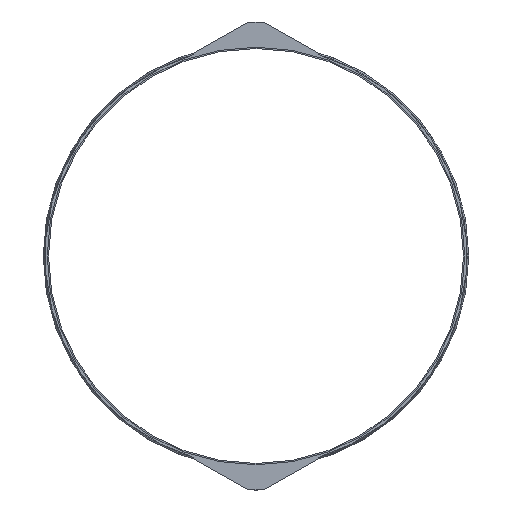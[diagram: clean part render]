
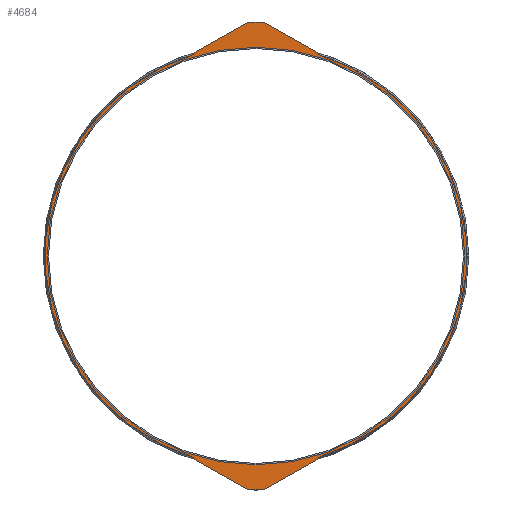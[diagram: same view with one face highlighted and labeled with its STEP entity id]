
A CAD part, left-side view. The second image highlights one B-rep face of the part: STEP entity #4684.
In plain terms, the highlighted planar face has unit normal (-1, 0, 0).
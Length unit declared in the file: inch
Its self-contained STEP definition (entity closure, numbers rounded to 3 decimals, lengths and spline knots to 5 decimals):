
#134=FACE_BOUND('',#814,.T.);
#300=PLANE('',#5095);
#539=FACE_OUTER_BOUND('',#813,.T.);
#813=EDGE_LOOP('',(#4140,#4141,#4142,#4143,#4144,#4145,#4146,#4147,#4148,
#4149,#4150,#4151,#4152,#4153,#4154,#4155,#4156,#4157,#4158,#4159));
#814=EDGE_LOOP('',(#4160,#4161));
#973=LINE('',#6759,#1422);
#977=LINE('',#6771,#1426);
#981=LINE('',#6783,#1430);
#985=LINE('',#6795,#1434);
#987=LINE('',#6800,#1436);
#1206=LINE('',#7611,#1655);
#1210=LINE('',#7623,#1659);
#1214=LINE('',#7635,#1663);
#1218=LINE('',#7645,#1667);
#1221=LINE('',#7651,#1670);
#1422=VECTOR('',#5479,0.3937);
#1426=VECTOR('',#5491,0.3937);
#1430=VECTOR('',#5503,0.3937);
#1434=VECTOR('',#5515,0.3937);
#1436=VECTOR('',#5519,0.3937);
#1655=VECTOR('',#6082,0.3937);
#1659=VECTOR('',#6094,0.3937);
#1663=VECTOR('',#6106,0.3937);
#1667=VECTOR('',#6118,0.3937);
#1670=VECTOR('',#6123,0.3937);
#1739=CIRCLE('',#4808,0.063);
#1741=CIRCLE('',#4812,0.125);
#1743=CIRCLE('',#4816,0.125);
#1745=CIRCLE('',#4820,0.063);
#1750=CIRCLE('',#4829,60.625);
#1803=CIRCLE('',#4993,0.063);
#1805=CIRCLE('',#4997,0.125);
#1807=CIRCLE('',#5001,0.125);
#1809=CIRCLE('',#5005,0.063);
#1811=CIRCLE('',#5011,60.625);
#1863=CIRCLE('',#5093,60.);
#1864=CIRCLE('',#5094,60.);
#1988=VERTEX_POINT('',#6749);
#1989=VERTEX_POINT('',#6751);
#1991=VERTEX_POINT('',#6757);
#1993=VERTEX_POINT('',#6763);
#1995=VERTEX_POINT('',#6769);
#1997=VERTEX_POINT('',#6775);
#1999=VERTEX_POINT('',#6781);
#2001=VERTEX_POINT('',#6787);
#2003=VERTEX_POINT('',#6793);
#2005=VERTEX_POINT('',#6799);
#2014=VERTEX_POINT('',#6821);
#2206=VERTEX_POINT('',#7602);
#2207=VERTEX_POINT('',#7604);
#2209=VERTEX_POINT('',#7610);
#2211=VERTEX_POINT('',#7616);
#2213=VERTEX_POINT('',#7622);
#2215=VERTEX_POINT('',#7628);
#2217=VERTEX_POINT('',#7634);
#2219=VERTEX_POINT('',#7640);
#2221=VERTEX_POINT('',#7649);
#2285=VERTEX_POINT('',#7841);
#2286=VERTEX_POINT('',#7843);
#2468=EDGE_CURVE('',#1988,#1989,#1739,.T.);
#2472=EDGE_CURVE('',#1991,#1988,#973,.T.);
#2475=EDGE_CURVE('',#1993,#1991,#1741,.T.);
#2478=EDGE_CURVE('',#1995,#1993,#977,.T.);
#2481=EDGE_CURVE('',#1997,#1995,#1743,.T.);
#2484=EDGE_CURVE('',#1999,#1997,#981,.T.);
#2487=EDGE_CURVE('',#2001,#1999,#1745,.T.);
#2490=EDGE_CURVE('',#2003,#2001,#985,.T.);
#2492=EDGE_CURVE('',#1989,#2005,#987,.T.);
#2504=EDGE_CURVE('',#2014,#2003,#1750,.T.);
#2790=EDGE_CURVE('',#2207,#2206,#1803,.T.);
#2793=EDGE_CURVE('',#2209,#2207,#1206,.T.);
#2796=EDGE_CURVE('',#2211,#2209,#1805,.T.);
#2799=EDGE_CURVE('',#2213,#2211,#1210,.T.);
#2802=EDGE_CURVE('',#2215,#2213,#1807,.T.);
#2805=EDGE_CURVE('',#2217,#2215,#1214,.T.);
#2808=EDGE_CURVE('',#2219,#2217,#1809,.T.);
#2811=EDGE_CURVE('',#2014,#2219,#1218,.T.);
#2814=EDGE_CURVE('',#2206,#2221,#1221,.T.);
#2819=EDGE_CURVE('',#2005,#2221,#1811,.T.);
#2910=EDGE_CURVE('',#2286,#2285,#1863,.T.);
#2911=EDGE_CURVE('',#2285,#2286,#1864,.T.);
#4140=ORIENTED_EDGE('',*,*,#2504,.F.);
#4141=ORIENTED_EDGE('',*,*,#2811,.T.);
#4142=ORIENTED_EDGE('',*,*,#2808,.T.);
#4143=ORIENTED_EDGE('',*,*,#2805,.T.);
#4144=ORIENTED_EDGE('',*,*,#2802,.T.);
#4145=ORIENTED_EDGE('',*,*,#2799,.T.);
#4146=ORIENTED_EDGE('',*,*,#2796,.T.);
#4147=ORIENTED_EDGE('',*,*,#2793,.T.);
#4148=ORIENTED_EDGE('',*,*,#2790,.T.);
#4149=ORIENTED_EDGE('',*,*,#2814,.T.);
#4150=ORIENTED_EDGE('',*,*,#2819,.F.);
#4151=ORIENTED_EDGE('',*,*,#2492,.F.);
#4152=ORIENTED_EDGE('',*,*,#2468,.F.);
#4153=ORIENTED_EDGE('',*,*,#2472,.F.);
#4154=ORIENTED_EDGE('',*,*,#2475,.F.);
#4155=ORIENTED_EDGE('',*,*,#2478,.F.);
#4156=ORIENTED_EDGE('',*,*,#2481,.F.);
#4157=ORIENTED_EDGE('',*,*,#2484,.F.);
#4158=ORIENTED_EDGE('',*,*,#2487,.F.);
#4159=ORIENTED_EDGE('',*,*,#2490,.F.);
#4160=ORIENTED_EDGE('',*,*,#2910,.T.);
#4161=ORIENTED_EDGE('',*,*,#2911,.T.);
#4684=ADVANCED_FACE('',(#539,#134),#300,.T.);
#4808=AXIS2_PLACEMENT_3D('',#6752,#5472,#5473);
#4812=AXIS2_PLACEMENT_3D('',#6765,#5485,#5486);
#4816=AXIS2_PLACEMENT_3D('',#6777,#5497,#5498);
#4820=AXIS2_PLACEMENT_3D('',#6789,#5509,#5510);
#4829=AXIS2_PLACEMENT_3D('',#6823,#5539,#5540);
#4993=AXIS2_PLACEMENT_3D('',#7605,#6076,#6077);
#4997=AXIS2_PLACEMENT_3D('',#7617,#6088,#6089);
#5001=AXIS2_PLACEMENT_3D('',#7629,#6100,#6101);
#5005=AXIS2_PLACEMENT_3D('',#7641,#6112,#6113);
#5011=AXIS2_PLACEMENT_3D('',#7661,#6133,#6134);
#5093=AXIS2_PLACEMENT_3D('',#7844,#6336,#6337);
#5094=AXIS2_PLACEMENT_3D('',#7845,#6338,#6339);
#5095=AXIS2_PLACEMENT_3D('',#7846,#6340,#6341);
#5472=DIRECTION('center_axis',(1.,0.,0.));
#5473=DIRECTION('ref_axis',(0.,-1.,0.));
#5479=DIRECTION('',(0.,0.87,0.494));
#5485=DIRECTION('center_axis',(1.,0.,0.));
#5486=DIRECTION('ref_axis',(0.,-0.494,0.87));
#5491=DIRECTION('',(0.,1.,0.));
#5497=DIRECTION('center_axis',(1.,0.,0.));
#5498=DIRECTION('ref_axis',(0.,0.,1.));
#5503=DIRECTION('',(0.,0.87,-0.494));
#5509=DIRECTION('center_axis',(1.,0.,0.));
#5510=DIRECTION('ref_axis',(0.,0.494,0.87));
#5515=DIRECTION('',(0.,0.,-1.));
#5519=DIRECTION('',(0.,0.,1.));
#5539=DIRECTION('center_axis',(1.,0.,0.));
#5540=DIRECTION('ref_axis',(0.,0.,-1.));
#6076=DIRECTION('center_axis',(-1.,0.,0.));
#6077=DIRECTION('ref_axis',(0.,-1.,0.));
#6082=DIRECTION('',(0.,0.87,-0.494));
#6088=DIRECTION('center_axis',(-1.,0.,0.));
#6089=DIRECTION('ref_axis',(0.,-0.494,-0.87));
#6094=DIRECTION('',(0.,1.,0.));
#6100=DIRECTION('center_axis',(-1.,0.,0.));
#6101=DIRECTION('ref_axis',(0.,0.,-1.));
#6106=DIRECTION('',(0.,0.87,0.494));
#6112=DIRECTION('center_axis',(-1.,0.,0.));
#6113=DIRECTION('ref_axis',(0.,0.494,-0.87));
#6118=DIRECTION('',(0.,0.,1.));
#6123=DIRECTION('',(0.,0.,-1.));
#6133=DIRECTION('center_axis',(1.,0.,0.));
#6134=DIRECTION('ref_axis',(0.,0.,-1.));
#6336=DIRECTION('center_axis',(1.,0.,0.));
#6337=DIRECTION('ref_axis',(0.,0.,-1.));
#6338=DIRECTION('center_axis',(1.,0.,0.));
#6339=DIRECTION('ref_axis',(0.,0.,-1.));
#6340=DIRECTION('center_axis',(-1.,0.,0.));
#6341=DIRECTION('ref_axis',(0.,0.,1.));
#6749=CARTESIAN_POINT('',(-7.5,17.96811,-58.28431));
#6751=CARTESIAN_POINT('',(-7.5,18.,-58.22952));
#6752=CARTESIAN_POINT('Origin',(-7.5,17.937,-58.22952));
#6757=CARTESIAN_POINT('',(-7.5,2.42871,-67.1087));
#6759=CARTESIAN_POINT('',(-7.5,2.42871,-67.1087));
#6763=CARTESIAN_POINT('',(-7.5,2.36698,-67.125));
#6765=CARTESIAN_POINT('Origin',(-7.5,2.36698,-67.));
#6769=CARTESIAN_POINT('',(-7.5,-2.36698,-67.125));
#6771=CARTESIAN_POINT('',(-7.5,0.,-67.125));
#6775=CARTESIAN_POINT('',(-7.5,-2.42871,-67.1087));
#6777=CARTESIAN_POINT('Origin',(-7.5,-2.36698,-67.));
#6781=CARTESIAN_POINT('',(-7.5,-17.96811,-58.28431));
#6783=CARTESIAN_POINT('',(-7.5,-17.96811,-58.28431));
#6787=CARTESIAN_POINT('',(-7.5,-18.,-58.22952));
#6789=CARTESIAN_POINT('Origin',(-7.5,-17.937,-58.22952));
#6793=CARTESIAN_POINT('',(-7.5,-18.,-57.8912));
#6795=CARTESIAN_POINT('',(-7.5,-18.,-57.8912));
#6799=CARTESIAN_POINT('',(-7.5,18.,-57.8912));
#6800=CARTESIAN_POINT('',(-7.5,18.,-58.22952));
#6821=CARTESIAN_POINT('',(-7.5,-18.,57.8912));
#6823=CARTESIAN_POINT('Origin',(-7.5,0.,0.));
#7602=CARTESIAN_POINT('',(-7.5,18.,58.22952));
#7604=CARTESIAN_POINT('',(-7.5,17.96811,58.28431));
#7605=CARTESIAN_POINT('Origin',(-7.5,17.937,58.22952));
#7610=CARTESIAN_POINT('',(-7.5,2.42871,67.1087));
#7611=CARTESIAN_POINT('',(-7.5,2.42871,67.1087));
#7616=CARTESIAN_POINT('',(-7.5,2.36698,67.125));
#7617=CARTESIAN_POINT('Origin',(-7.5,2.36698,67.));
#7622=CARTESIAN_POINT('',(-7.5,-2.36698,67.125));
#7623=CARTESIAN_POINT('',(-7.5,0.,67.125));
#7628=CARTESIAN_POINT('',(-7.5,-2.42871,67.1087));
#7629=CARTESIAN_POINT('Origin',(-7.5,-2.36698,67.));
#7634=CARTESIAN_POINT('',(-7.5,-17.96811,58.28431));
#7635=CARTESIAN_POINT('',(-7.5,-17.96811,58.28431));
#7640=CARTESIAN_POINT('',(-7.5,-18.,58.22952));
#7641=CARTESIAN_POINT('Origin',(-7.5,-17.937,58.22952));
#7645=CARTESIAN_POINT('',(-7.5,-18.,57.8912));
#7649=CARTESIAN_POINT('',(-7.5,18.,57.8912));
#7651=CARTESIAN_POINT('',(-7.5,18.,58.22952));
#7661=CARTESIAN_POINT('Origin',(-7.5,0.,0.));
#7841=CARTESIAN_POINT('',(-7.5,-60.,0.));
#7843=CARTESIAN_POINT('',(-7.5,60.,0.));
#7844=CARTESIAN_POINT('Origin',(-7.5,0.,0.));
#7845=CARTESIAN_POINT('Origin',(-7.5,0.,0.));
#7846=CARTESIAN_POINT('Origin',(-7.5,60.625,0.));
